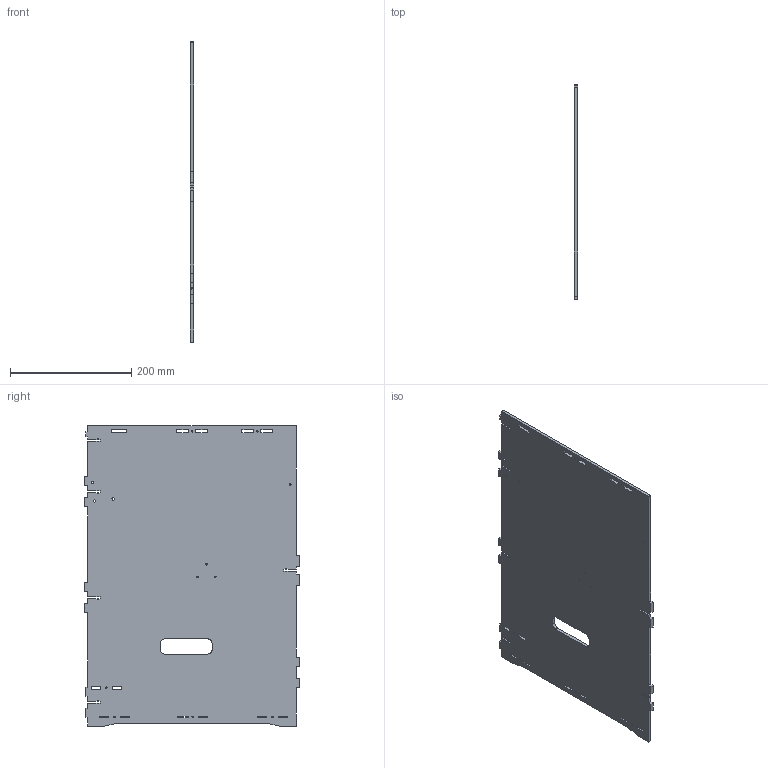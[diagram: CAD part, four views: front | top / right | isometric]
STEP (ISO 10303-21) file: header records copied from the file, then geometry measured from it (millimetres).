
FILE_DESCRIPTION(/* description */ (''),/* implementation_level */ '2;1');
FILE_NAME(/* name */ 'TAPADE~2',/* time_stamp */ '2019-04-02T01:19:18-03:00',/* author */ (''),/* organization */ (''),/* preprocessor_version */ 'ST-DEVELOPER v16.5',/* originating_system */ '',/* authorisation */ '');
FILE_SCHEMA (('AUTOMOTIVE_DESIGN'));
Length unit declared in the file: millimetre
Products named in the file (1): Document
Bounding box: 5 x 354.98 x 496.35 mm (x, y, z)
Volume: 835595 mm3; surface area: 349240.5 mm2
Topology: 1 solids, 1 shells, 218 faces, 643 edges, 428 vertices
Faces by surface type: plane 182, bspline 36
Entity records: 6681 total; most frequent: CARTESIAN_POINT 2476, ORIENTED_EDGE 1286, EDGE_CURVE 643, B_SPLINE_CURVE_WITH_KNOTS 543, VERTEX_POINT 428, EDGE_LOOP 273, ADVANCED_FACE 218, FACE_OUTER_BOUND 218
